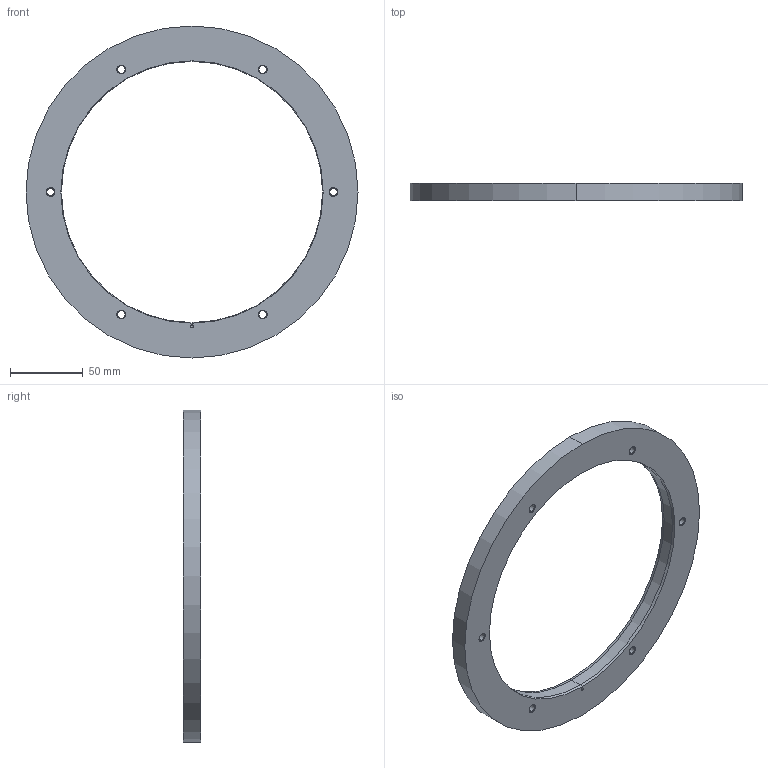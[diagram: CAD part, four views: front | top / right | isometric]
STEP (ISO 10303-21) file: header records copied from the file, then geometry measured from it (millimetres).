
FILE_DESCRIPTION (( 'STEP AP214' ), '1' );
FILE_NAME ('SAR229_exposed.STEP', '2024-02-02T10:39:35', ( '' ), ( '' ), 'SwSTEP 2.0', 'SolidWorks 2022', '' );
FILE_SCHEMA (( 'AUTOMOTIVE_DESIGN' ));
Length unit declared in the file: millimetre
Products named in the file (1): SAR229_exposed
Bounding box: 228.8 x 12 x 228.8 mm (x, y, z)
Volume: 183467.1 mm3; surface area: 47977.3 mm2
Topology: 1 solids, 1 shells, 826 faces, 2233 edges, 1476 vertices
Faces by surface type: plane 654, bspline 86, cylinder 54, cone 32
Entity records: 29645 total; most frequent: CARTESIAN_POINT 9246, ORIENTED_EDGE 4458, DIRECTION 3675, EDGE_CURVE 2229, LINE 1921, VECTOR 1921, VERTEX_POINT 1476, EDGE_LOOP 911
